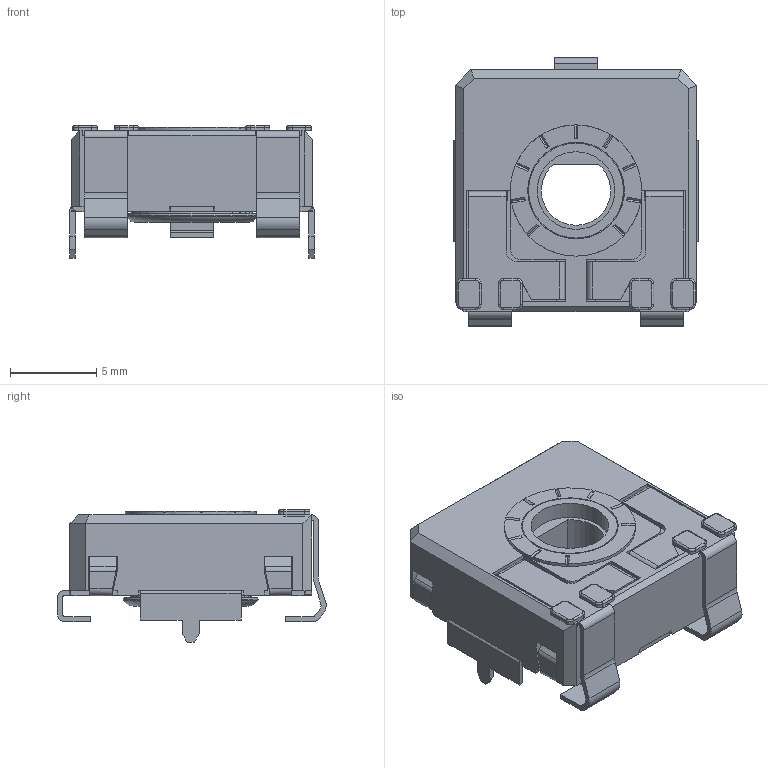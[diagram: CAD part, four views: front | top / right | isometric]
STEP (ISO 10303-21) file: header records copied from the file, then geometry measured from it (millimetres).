
FILE_DESCRIPTION(/* description */ (''),/* implementation_level */ '2;1');
FILE_NAME(/* name */ 'C:\Users\CEM\Desktop\ENVIAR\TRANSICION 3D CATALOGOS\RS14FVSMD CY RT-RO.stp',/* time_stamp */ '2025-12-10T12:18:35+01:00',/* author */ ('CEM'),/* organization */ (''),/* preprocessor_version */ 'ST-DEVELOPER v16.13',/* originating_system */ 'Autodesk Inventor 2018',/* authorisation */ '');
FILE_SCHEMA (('AUTOMOTIVE_DESIGN { 1 0 10303 214 3 1 1 }'));
Length unit declared in the file: millimetre
Products named in the file (1): CARCASA CA14 PGA
Bounding box: 14.15 x 15.55 x 7.7 mm (x, y, z)
Volume: 537.5 mm3; surface area: 1504.6 mm2
Topology: 1 solids, 1 shells, 567 faces, 1602 edges, 1023 vertices
Faces by surface type: plane 421, cylinder 109, torus 23, bspline 8, cone 6
Full cylindrical faces by diameter (mm): 4.5 x1, 5.1 x1, 5.5 x1, 5.6 x1, 5.752 x1, 6.8 x1, 7.6 x1
Entity records: 18426 total; most frequent: CARTESIAN_POINT 3382, ORIENTED_EDGE 3170, DIRECTION 2978, EDGE_CURVE 1585, LINE 1256, VECTOR 1256, VERTEX_POINT 1017, AXIS2_PLACEMENT_3D 861
